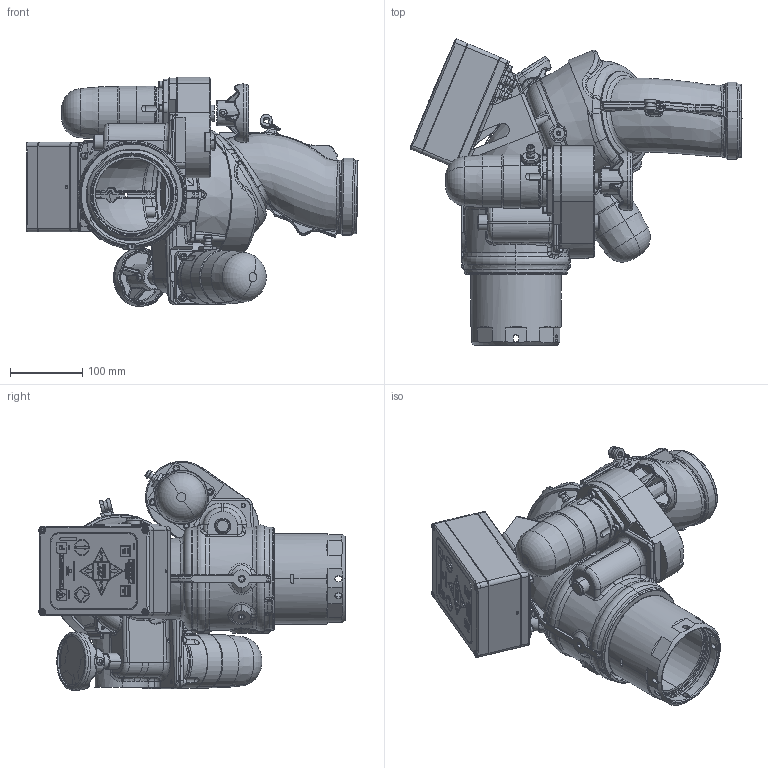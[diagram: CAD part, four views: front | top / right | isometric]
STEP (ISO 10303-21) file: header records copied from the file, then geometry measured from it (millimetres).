
FILE_DESCRIPTION (( 'STEP AP203' ), '1' );
FILE_NAME ('Y4-EP1A-L_Horizontal.STEP', '2016-06-08T11:21:47', ( '' ), ( '' ), 'SwSTEP 2.0', 'SolidWorks 2015', '' );
FILE_SCHEMA (( 'CONFIG_CONTROL_DESIGN' ));
Products named in the file (1): Y4-EP1A-L_Horizontal
Bounding box: 460.06 x 424.32 x 317.62 mm (x, y, z)
Surface area: 836372.2 mm2 (no closed solid volume)
Topology: 0 solids, 221 shells, 2601 faces, 10857 edges, 8301 vertices
Faces by surface type: plane 872, cylinder 587, bspline 565, cone 286, torus 270, sphere 21
Entity records: 180890 total; most frequent: CARTESIAN_POINT 100280, ORIENTED_EDGE 15897, DIRECTION 14291, EDGE_CURVE 10840, VERTEX_POINT 8300, VECTOR 4885, LINE 4885, AXIS2_PLACEMENT_3D 4703
